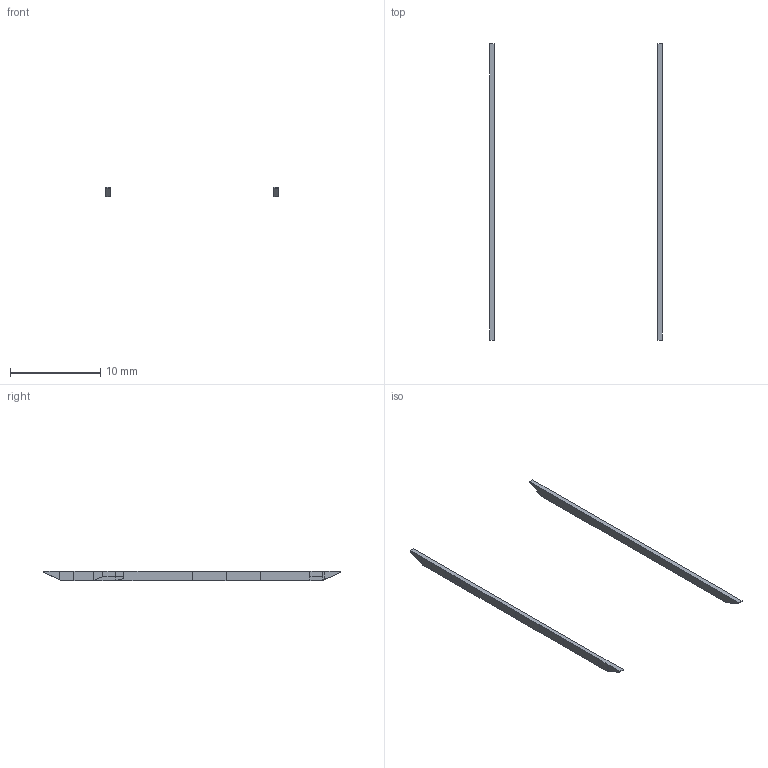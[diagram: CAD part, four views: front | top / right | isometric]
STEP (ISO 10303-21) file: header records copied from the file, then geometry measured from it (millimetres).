
FILE_DESCRIPTION(('Open CASCADE Model'),'2;1');
FILE_NAME('Open CASCADE Shape Model','2026-10-01T12:00:21',('Author'),( 'Open CASCADE'),'Open CASCADE STEP processor 7.9','Open CASCADE 7.9' ,'Unknown');
FILE_SCHEMA(('AUTOMOTIVE_DESIGN { 1 0 10303 214 1 1 1 1 }'));
Length unit declared in the file: millimetre
Products named in the file (3): Open CASCADE STEP translator 7.9 5; Open CASCADE STEP translator 7.9 5.1; Open CASCADE STEP translator 7.9 5.2
Assembly tree (2 placements, depth 2):
  Open CASCADE STEP translator 7.9 5
    Open CASCADE STEP translator 7.9 5.1
    Open CASCADE STEP translator 7.9 5.2
Bounding box: 19.22 x 32.95 x 1 mm (x, y, z)
Volume: 31.2 mm3; surface area: 191.2 mm2
Topology: 2 solids, 2 shells, 38 faces, 101 edges, 67 vertices
Faces by surface type: plane 38
Entity records: 2410 total; most frequent: CARTESIAN_POINT 515, DIRECTION 281, ORIENTED_EDGE 202, PCURVE 202, DEFINITIONAL_REPRESENTATION 202, LINE 199, VECTOR 199, B_SPLINE_CURVE_WITH_KNOTS 104
